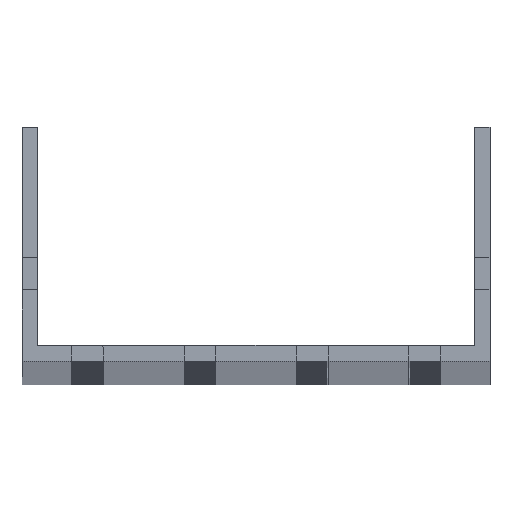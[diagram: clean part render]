
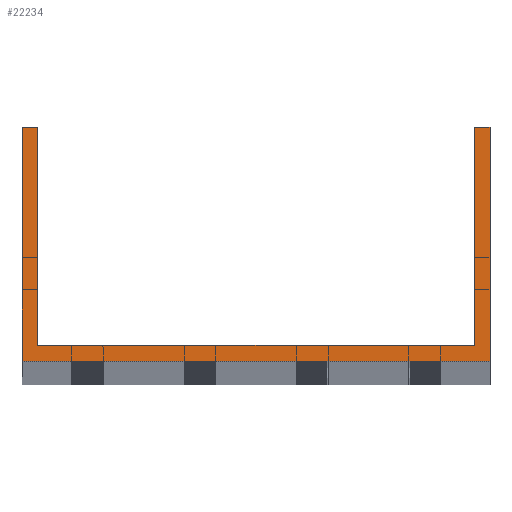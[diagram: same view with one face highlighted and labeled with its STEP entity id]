
A CAD part, top view. The second image highlights one B-rep face of the part: STEP entity #22234.
In plain terms, the highlighted planar face has unit normal (0, 0, 1).
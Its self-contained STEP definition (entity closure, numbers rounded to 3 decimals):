
#7 = FACE_OUTER_BOUND ( 'NONE', #27729, .T. ) ;
#63 = VERTEX_POINT ( 'NONE', #8877 ) ;
#2555 = VERTEX_POINT ( 'NONE', #45307 ) ;
#2589 = LINE ( 'NONE', #33636, #29836 ) ;
#3179 = CARTESIAN_POINT ( 'NONE',  ( 52., 52., 1500. ) ) ;
#3225 = EDGE_CURVE ( 'NONE', #34372, #5606, #11513, .T. ) ;
#3629 = LINE ( 'NONE', #31674, #43015 ) ;
#5200 = ORIENTED_EDGE ( 'NONE', *, *, #3225, .T. ) ;
#5606 = VERTEX_POINT ( 'NONE', #28428 ) ;
#7632 = VECTOR ( 'NONE', #53080, 1000. ) ;
#8877 = CARTESIAN_POINT ( 'NONE',  ( -52., 0., 1500. ) ) ;
#8983 = CARTESIAN_POINT ( 'NONE',  ( 0., 0., 1500. ) ) ;
#10425 = EDGE_CURVE ( 'NONE', #15840, #34372, #44040, .T. ) ;
#11513 = LINE ( 'NONE', #28815, #37370 ) ;
#11546 = ORIENTED_EDGE ( 'NONE', *, *, #52039, .T. ) ;
#12575 = DIRECTION ( 'NONE',  ( 0., 0., 1. ) ) ;
#15840 = VERTEX_POINT ( 'NONE', #51764 ) ;
#16004 = VECTOR ( 'NONE', #21901, 1000. ) ;
#16728 = ORIENTED_EDGE ( 'NONE', *, *, #17621, .F. ) ;
#17309 = LINE ( 'NONE', #30126, #7632 ) ;
#17430 = LINE ( 'NONE', #36189, #16004 ) ;
#17621 = EDGE_CURVE ( 'NONE', #2555, #56911, #2589, .T. ) ;
#20053 = DIRECTION ( 'NONE',  ( 1., 0., 0. ) ) ;
#20768 = VECTOR ( 'NONE', #52621, 1000. ) ;
#21166 = CARTESIAN_POINT ( 'NONE',  ( -52., 52., 1500. ) ) ;
#21821 = EDGE_CURVE ( 'NONE', #56179, #2555, #17430, .T. ) ;
#21901 = DIRECTION ( 'NONE',  ( 0., -1., 0. ) ) ;
#22234 = ADVANCED_FACE ( 'NONE', ( #7 ), #31353, .T. ) ;
#22413 = DIRECTION ( 'NONE',  ( 1., 0., 0. ) ) ;
#25316 = ORIENTED_EDGE ( 'NONE', *, *, #26365, .T. ) ;
#26365 = EDGE_CURVE ( 'NONE', #30927, #63, #17309, .T. ) ;
#27729 = EDGE_LOOP ( 'NONE', ( #56987, #11546, #25316, #31266, #41224, #5200, #35934, #16728 ) ) ;
#28428 = CARTESIAN_POINT ( 'NONE',  ( 48.5, 52., 1500. ) ) ;
#28815 = CARTESIAN_POINT ( 'NONE',  ( -52., 52., 1500. ) ) ;
#29836 = VECTOR ( 'NONE', #57181, 1000. ) ;
#30126 = CARTESIAN_POINT ( 'NONE',  ( -52., 52., 1500. ) ) ;
#30393 = EDGE_CURVE ( 'NONE', #63, #15840, #46024, .T. ) ;
#30927 = VERTEX_POINT ( 'NONE', #21166 ) ;
#31089 = DIRECTION ( 'NONE',  ( 0., 1., 0. ) ) ;
#31266 = ORIENTED_EDGE ( 'NONE', *, *, #30393, .T. ) ;
#31353 = PLANE ( 'NONE',  #51287 ) ;
#31674 = CARTESIAN_POINT ( 'NONE',  ( 48.5, 52., 1500. ) ) ;
#33636 = CARTESIAN_POINT ( 'NONE',  ( -52., 3.5, 1500. ) ) ;
#34372 = VERTEX_POINT ( 'NONE', #53021 ) ;
#34748 = DIRECTION ( 'NONE',  ( -1., 0., 0. ) ) ;
#35691 = DIRECTION ( 'NONE',  ( 0., 1., 0. ) ) ;
#35934 = ORIENTED_EDGE ( 'NONE', *, *, #42610, .F. ) ;
#36189 = CARTESIAN_POINT ( 'NONE',  ( -48.5, 52., 1500. ) ) ;
#37071 = CARTESIAN_POINT ( 'NONE',  ( -52., 0., 1500. ) ) ;
#37370 = VECTOR ( 'NONE', #34748, 1000. ) ;
#38603 = CARTESIAN_POINT ( 'NONE',  ( -48.5, 52., 1500. ) ) ;
#41224 = ORIENTED_EDGE ( 'NONE', *, *, #10425, .T. ) ;
#42610 = EDGE_CURVE ( 'NONE', #56911, #5606, #3629, .T. ) ;
#43015 = VECTOR ( 'NONE', #31089, 1000. ) ;
#43963 = LINE ( 'NONE', #47857, #20768 ) ;
#44040 = LINE ( 'NONE', #3179, #49404 ) ;
#45307 = CARTESIAN_POINT ( 'NONE',  ( -48.5, 3.5, 1500. ) ) ;
#46024 = LINE ( 'NONE', #37071, #55471 ) ;
#47857 = CARTESIAN_POINT ( 'NONE',  ( -52., 52., 1500. ) ) ;
#49404 = VECTOR ( 'NONE', #35691, 1000. ) ;
#50699 = CARTESIAN_POINT ( 'NONE',  ( 48.5, 3.5, 1500. ) ) ;
#51287 = AXIS2_PLACEMENT_3D ( 'NONE', #8983, #12575, #22413 ) ;
#51764 = CARTESIAN_POINT ( 'NONE',  ( 52., 0., 1500. ) ) ;
#52039 = EDGE_CURVE ( 'NONE', #56179, #30927, #43963, .T. ) ;
#52621 = DIRECTION ( 'NONE',  ( -1., 0., 0. ) ) ;
#53021 = CARTESIAN_POINT ( 'NONE',  ( 52., 52., 1500. ) ) ;
#53080 = DIRECTION ( 'NONE',  ( 0., -1., 0. ) ) ;
#55471 = VECTOR ( 'NONE', #20053, 1000. ) ;
#56179 = VERTEX_POINT ( 'NONE', #38603 ) ;
#56911 = VERTEX_POINT ( 'NONE', #50699 ) ;
#56987 = ORIENTED_EDGE ( 'NONE', *, *, #21821, .F. ) ;
#57181 = DIRECTION ( 'NONE',  ( 1., 0., 0. ) ) ;
